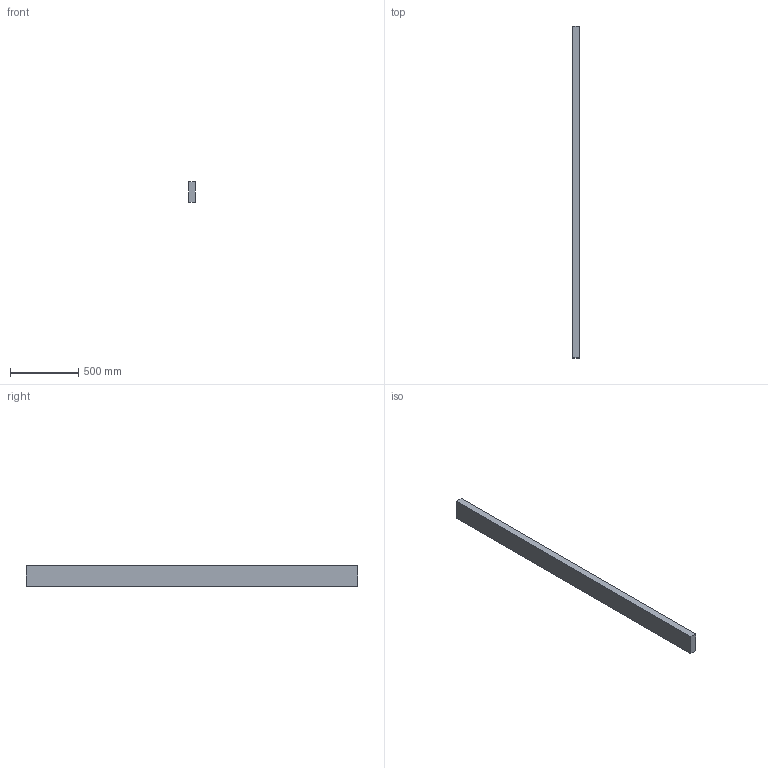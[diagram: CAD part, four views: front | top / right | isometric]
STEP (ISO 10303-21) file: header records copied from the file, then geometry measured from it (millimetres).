
FILE_DESCRIPTION(/* description */ (''),/* implementation_level */ '2;1');
FILE_NAME(/* name */ 'SM_Baffle2x6x96',/* time_stamp */ '2024-10-15T11:57:04-05:00',/* author */ (''),/* organization */ (''),/* preprocessor_version */ 'ST-DEVELOPER v19.2',/* originating_system */ 'Rhino 8.4',/* authorisation */ '');
FILE_SCHEMA (('CONFIG_CONTROL_DESIGN'));
Length unit declared in the file: inch
Products named in the file (1): Document
Bounding box: 50.8 x 2438.4 x 152.4 mm (x, y, z)
Volume: 18877897.7 mm3; surface area: 1006449.6 mm2
Topology: 1 solids, 1 shells, 6 faces, 12 edges, 8 vertices
Faces by surface type: plane 6
Entity records: 226 total; most frequent: CARTESIAN_POINT 40, ORIENTED_EDGE 24, EDGE_CURVE 12, B_SPLINE_CURVE_WITH_KNOTS 12, DIRECTION 10, VERTEX_POINT 8, AXIS2_PLACEMENT_3D 8, ORGANIZATION 7
